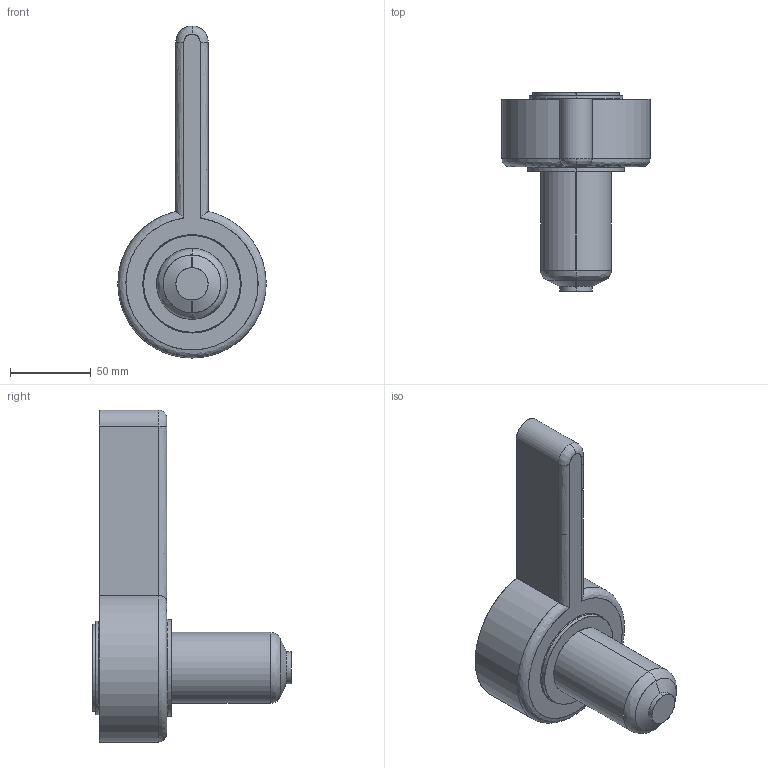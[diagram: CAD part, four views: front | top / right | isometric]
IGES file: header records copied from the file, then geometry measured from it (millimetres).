
Start section: SolidWorks IGES file using analytic representation for surfaces
Global section: file name: C:\Documents and Settings\ws-20\Desktop\TEM\Sede UGER6603-S-A C-74 L-121.IGS; native system: SolidWorks 2012; preprocessor: SolidWorks 2012; author: ws-20; date: 120417.105441; units: millimetre
Bounding box: 91.98 x 123.19 x 206 mm (x, y, z)
Surface area: 48515.2 mm2 (no closed solid volume)
Topology: 0 solids, 0 shells, 34 faces, 788 edges, 788 vertices
Faces by surface type: revolution 21, bspline 13
